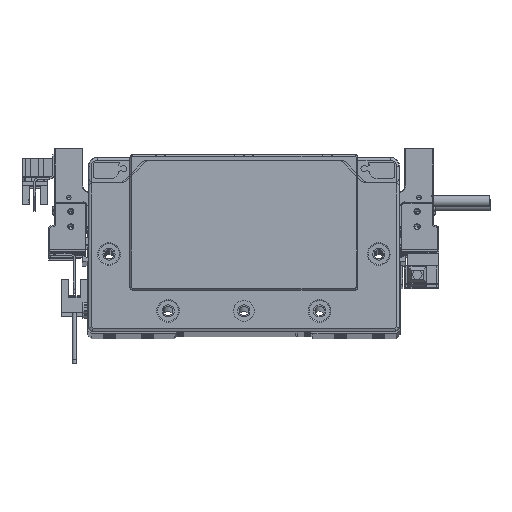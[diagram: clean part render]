
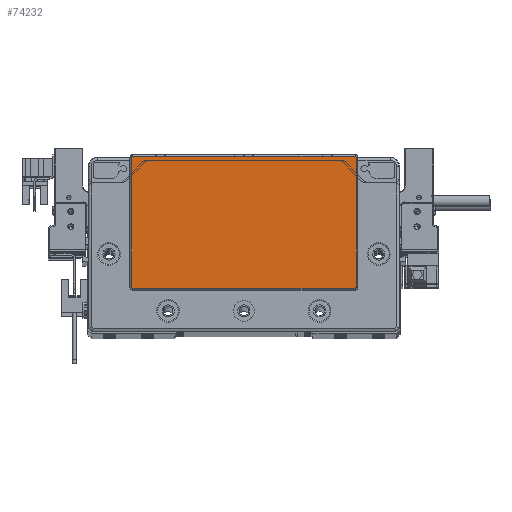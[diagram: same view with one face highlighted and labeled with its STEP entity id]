
A CAD part, top view. The second image highlights one B-rep face of the part: STEP entity #74232.
In plain terms, the highlighted planar face has unit normal (0, 0, 1) as drawn and (0, 0, -1) by its records, which use the part's own axes.
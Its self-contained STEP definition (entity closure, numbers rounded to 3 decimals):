
#3083 = EDGE_CURVE ( 'NONE', #54693, #86854, #62863, .T. ) ;
#5992 = AXIS2_PLACEMENT_3D ( 'NONE', #59456, #58916, #58372 ) ;
#8097 = CARTESIAN_POINT ( 'NONE',  ( 58.75, 45.8, -2. ) ) ;
#9057 = EDGE_CURVE ( 'NONE', #86854, #15749, #67491, .T. ) ;
#10189 = CIRCLE ( 'NONE', #93756, 0.5 ) ;
#13398 = DIRECTION ( 'NONE',  ( -1., 0., 0. ) ) ;
#14135 = DIRECTION ( 'NONE',  ( -1., 0., 0. ) ) ;
#15749 = VERTEX_POINT ( 'NONE', #88588 ) ;
#16293 = DIRECTION ( 'NONE',  ( -1., 0., 0. ) ) ;
#17110 = ORIENTED_EDGE ( 'NONE', *, *, #82799, .T. ) ;
#18257 = CARTESIAN_POINT ( 'NONE',  ( -58.75, 45.8, -2. ) ) ;
#18753 = EDGE_CURVE ( 'NONE', #96731, #83653, #71451, .T. ) ;
#19021 = DIRECTION ( 'NONE',  ( 1., 0., 0. ) ) ;
#23065 = ORIENTED_EDGE ( 'NONE', *, *, #59788, .T. ) ;
#23365 = AXIS2_PLACEMENT_3D ( 'NONE', #72455, #64083, #13398 ) ;
#24101 = ORIENTED_EDGE ( 'NONE', *, *, #18753, .T. ) ;
#25570 = ORIENTED_EDGE ( 'NONE', *, *, #31228, .T. ) ;
#26052 = ORIENTED_EDGE ( 'NONE', *, *, #3083, .T. ) ;
#26364 = AXIS2_PLACEMENT_3D ( 'NONE', #56492, #32520, #14135 ) ;
#30599 = LINE ( 'NONE', #37896, #74199 ) ;
#31228 = EDGE_CURVE ( 'NONE', #83653, #49083, #43569, .T. ) ;
#32520 = DIRECTION ( 'NONE',  ( 0., 0., -1. ) ) ;
#33793 = VECTOR ( 'NONE', #19021, 1000. ) ;
#37896 = CARTESIAN_POINT ( 'NONE',  ( 59.25, -23.3, -2. ) ) ;
#42395 = CARTESIAN_POINT ( 'NONE',  ( -59.25, 45.3, -2. ) ) ;
#43569 = LINE ( 'NONE', #102043, #33793 ) ;
#48621 = ORIENTED_EDGE ( 'NONE', *, *, #89933, .T. ) ;
#49083 = VERTEX_POINT ( 'NONE', #8097 ) ;
#51422 = DIRECTION ( 'NONE',  ( -1., 0., 0. ) ) ;
#54270 = VERTEX_POINT ( 'NONE', #102760 ) ;
#54693 = VERTEX_POINT ( 'NONE', #97457 ) ;
#55629 = CARTESIAN_POINT ( 'NONE',  ( -58.75, 45.3, -2. ) ) ;
#55778 = EDGE_CURVE ( 'NONE', #54270, #96731, #109882, .T. ) ;
#56307 = FACE_OUTER_BOUND ( 'NONE', #66435, .T. ) ;
#56492 = CARTESIAN_POINT ( 'NONE',  ( 58.75, 45.3, -2. ) ) ;
#58117 = CARTESIAN_POINT ( 'NONE',  ( -59.25, 45.3, -2. ) ) ;
#58372 = DIRECTION ( 'NONE',  ( -1., 0., 0. ) ) ;
#58916 = DIRECTION ( 'NONE',  ( 0., 0., -1. ) ) ;
#59198 = CARTESIAN_POINT ( 'NONE',  ( -58.75, -23.3, -2. ) ) ;
#59456 = CARTESIAN_POINT ( 'NONE',  ( 58.75, -23.3, -2. ) ) ;
#59788 = EDGE_CURVE ( 'NONE', #67479, #54693, #30599, .T. ) ;
#62863 = CIRCLE ( 'NONE', #5992, 0.5 ) ;
#64083 = DIRECTION ( 'NONE',  ( 0., 0., -1. ) ) ;
#66435 = EDGE_LOOP ( 'NONE', ( #23065, #26052, #97467, #17110, #81763, #24101, #25570, #48621 ) ) ;
#67479 = VERTEX_POINT ( 'NONE', #85854 ) ;
#67491 = LINE ( 'NONE', #93149, #69064 ) ;
#69064 = VECTOR ( 'NONE', #16293, 1000. ) ;
#71451 = CIRCLE ( 'NONE', #103478, 0.5 ) ;
#72455 = CARTESIAN_POINT ( 'NONE',  ( 0., 0., -2. ) ) ;
#74199 = VECTOR ( 'NONE', #90173, 1000. ) ;
#74232 = ADVANCED_FACE ( 'NONE', ( #56307 ), #96994, .T. ) ;
#74854 = DIRECTION ( 'NONE',  ( 0., 1., 0. ) ) ;
#79636 = DIRECTION ( 'NONE',  ( -1., 0., 0. ) ) ;
#81763 = ORIENTED_EDGE ( 'NONE', *, *, #55778, .T. ) ;
#82799 = EDGE_CURVE ( 'NONE', #15749, #54270, #10189, .T. ) ;
#83653 = VERTEX_POINT ( 'NONE', #18257 ) ;
#84290 = CARTESIAN_POINT ( 'NONE',  ( 58.75, -23.8, -2. ) ) ;
#85854 = CARTESIAN_POINT ( 'NONE',  ( 59.25, 45.3, -2. ) ) ;
#86854 = VERTEX_POINT ( 'NONE', #84290 ) ;
#88588 = CARTESIAN_POINT ( 'NONE',  ( -58.75, -23.8, -2. ) ) ;
#89933 = EDGE_CURVE ( 'NONE', #49083, #67479, #108192, .T. ) ;
#90173 = DIRECTION ( 'NONE',  ( 0., -1., 0. ) ) ;
#93149 = CARTESIAN_POINT ( 'NONE',  ( -58.75, -23.8, -2. ) ) ;
#93756 = AXIS2_PLACEMENT_3D ( 'NONE', #59198, #109326, #51422 ) ;
#96731 = VERTEX_POINT ( 'NONE', #42395 ) ;
#96994 = PLANE ( 'NONE',  #23365 ) ;
#97457 = CARTESIAN_POINT ( 'NONE',  ( 59.25, -23.3, -2. ) ) ;
#97467 = ORIENTED_EDGE ( 'NONE', *, *, #9057, .T. ) ;
#102043 = CARTESIAN_POINT ( 'NONE',  ( 58.75, 45.8, -2. ) ) ;
#102760 = CARTESIAN_POINT ( 'NONE',  ( -59.25, -23.3, -2. ) ) ;
#103478 = AXIS2_PLACEMENT_3D ( 'NONE', #55629, #104636, #79636 ) ;
#104636 = DIRECTION ( 'NONE',  ( 0., 0., -1. ) ) ;
#108192 = CIRCLE ( 'NONE', #26364, 0.5 ) ;
#109316 = VECTOR ( 'NONE', #74854, 1000. ) ;
#109326 = DIRECTION ( 'NONE',  ( 0., 0., -1. ) ) ;
#109882 = LINE ( 'NONE', #58117, #109316 ) ;
